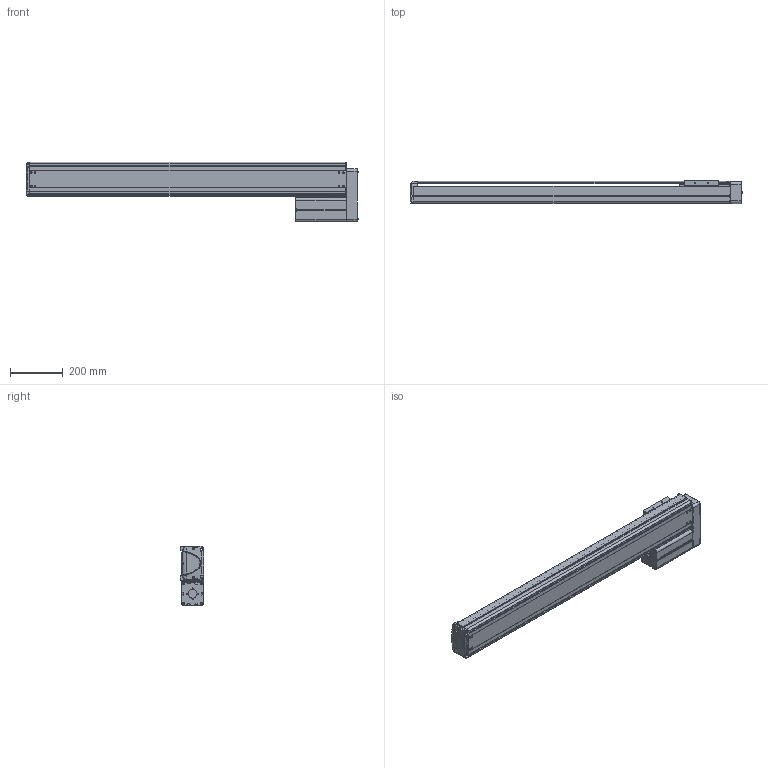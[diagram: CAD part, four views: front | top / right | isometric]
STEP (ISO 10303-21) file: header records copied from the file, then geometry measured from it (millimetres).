
FILE_DESCRIPTION((''),'2;1');
FILE_NAME('BE30E-UL-M_B-A0_IGS_PRT','2017-06-17T',(' '),(''),'PRO/ENGINEER BY PARAMETRIC TECHNOLOGY CORPORATION, 2015030','PRO/ENGINEER BY PARAMETRIC TECHNOLOGY CORPORATION, 2015030','');
FILE_SCHEMA(('CONFIG_CONTROL_DESIGN'));
Length unit declared in the file: millimetre
Products named in the file (1): BE30E-UL-M_B-A0_IGS_PRT
Bounding box: 1261.9 x 89.8 x 227 mm (x, y, z)
Volume: 4146784.9 mm3; surface area: 1774673.9 mm2
Topology: 2 solids, 129 shells, 2057 faces, 5548 edges, 3608 vertices
Faces by surface type: plane 996, cylinder 871, cone 101, torus 37, bspline 28, sphere 24
Entity records: 66663 total; most frequent: CARTESIAN_POINT 14122, DIRECTION 11105, ORIENTED_EDGE 10537, EDGE_CURVE 5510, AXIS2_PLACEMENT_3D 3926, VERTEX_POINT 3608, VECTOR 3253, LINE 3253
